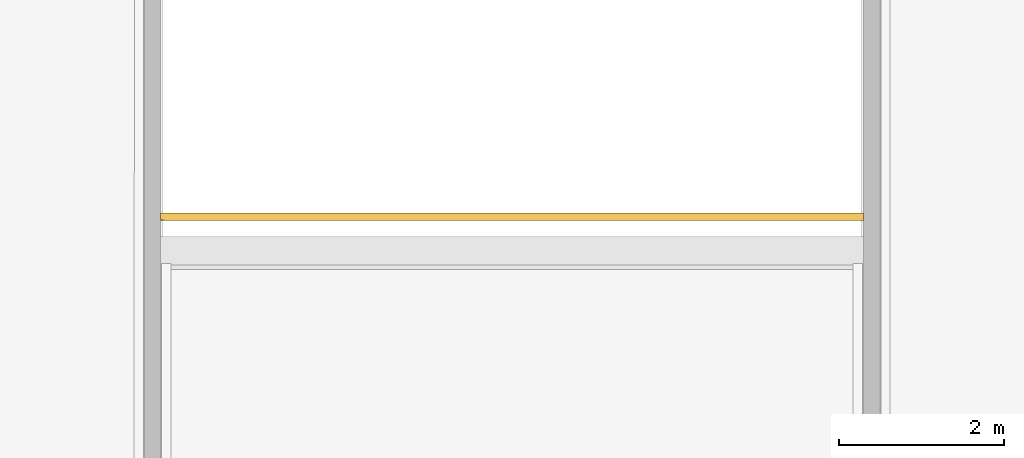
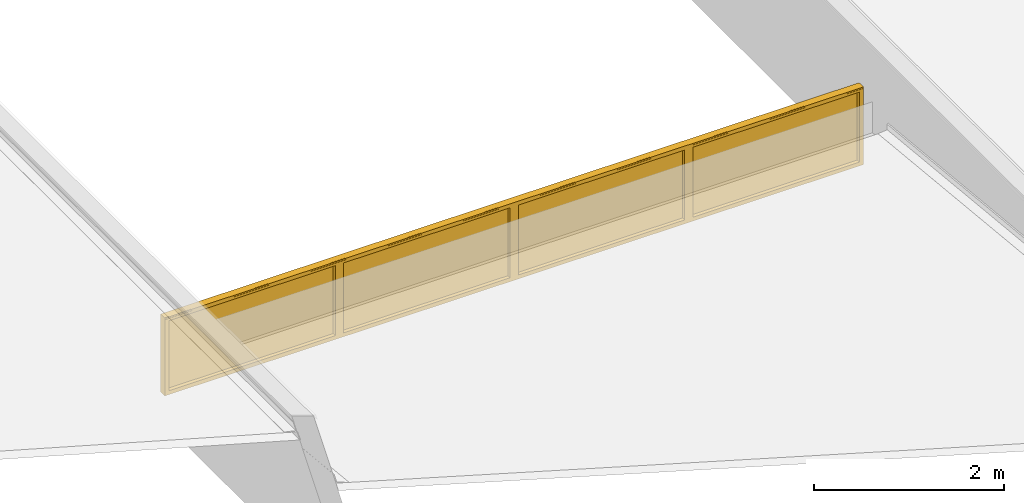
# One storey, part 25 of 25: 1 shading device.
"""IFC4 building model written with IfcOpenShell, lengths in metres."""

from ifc_helpers import new_model, entity, si_unit, converted_unit, derived_unit, direction, frame, origin_with_axes, place, context, subcontext, project, spatial, polygons, material, constituent, constituent_set, type_object, element, save


model = new_model("IFC4")

# Units and contexts
model_context = context("Model", 3, precision=1e-05, world=origin_with_axes(), true_north=direction((0.0, 1.0)))
body_context = subcontext(model_context, "Body", "Model", "MODEL_VIEW")
ifc_project = project(units=[si_unit("LENGTHUNIT", "METRE"), si_unit("AREAUNIT", "SQUARE_METRE"), si_unit("VOLUMEUNIT", "CUBIC_METRE"), converted_unit("PLANEANGLEUNIT", "DEGREE", entity("IfcPlaneAngleMeasure", 0.0174532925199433), si_unit("PLANEANGLEUNIT", "RADIAN"), dimensions=[0, 0, 0, 0, 0, 0, 0]), converted_unit("TIMEUNIT", "Year", entity("IfcTimeMeasure", 31557600.0), si_unit("TIMEUNIT", "SECOND"), dimensions=[0, 0, 1, 0, 0, 0, 0]), si_unit("MASSUNIT", "GRAM", prefix="KILO"), si_unit("THERMODYNAMICTEMPERATUREUNIT", "DEGREE_CELSIUS"), si_unit("LUMINOUSINTENSITYUNIT", "LUMEN"), si_unit("ENERGYUNIT", "JOULE", prefix="MEGA"), derived_unit("THERMALCONDUCTANCEUNIT", [(si_unit("POWERUNIT", "WATT"), 1), (si_unit("LENGTHUNIT", "METRE"), -1), (si_unit("THERMODYNAMICTEMPERATUREUNIT", "KELVIN"), -1)]), derived_unit("SPECIFICHEATCAPACITYUNIT", [(si_unit("ENERGYUNIT", "JOULE"), 1), (si_unit("MASSUNIT", "GRAM", prefix="KILO"), -1), (si_unit("THERMODYNAMICTEMPERATUREUNIT", "KELVIN"), -1)]), derived_unit("MASSDENSITYUNIT", [(si_unit("MASSUNIT", "GRAM", prefix="KILO"), 1), (si_unit("VOLUMEUNIT", "CUBIC_METRE"), -1)])], contexts=[model_context])

# Site, building, storey
site_placement = place(None, origin_with_axes())
site = spatial("IfcSite", under=ifc_project, at=site_placement, Name="PADRÃO", CompositionType="ELEMENT")
building_placement = place(site_placement, origin_with_axes())
building = spatial("IfcBuilding", under=site, at=building_placement, Name="CRECHE PRÉ-ESCOLA TIPO 2", CompositionType="ELEMENT")
storey_placement = place(building_placement, frame((0.0, 0.0, 3.26), z_axis=(0.0, 0.0, 1.0), x_axis=(1.0, 0.0, 0.0)))
storey = spatial("IfcBuildingStorey", under=building, at=storey_placement, Name="COBERTURA", CompositionType="ELEMENT", Elevation=3.26)

# Shading device
ifc_material_1 = material(Name="EI-MTL-PERFIL EM AÇO GALVANIZADO -AZUL")
ifc_constituent_1 = constituent(ifc_material_1, Name="EI-MTL-PERFIL EM AÇO GALVANIZADO -AZUL 1")
ifc_constituent_2 = constituent(ifc_material_1, Name="EI-MTL-PERFIL EM AÇO GALVANIZADO -AZUL 2")
ifc_material_2 = material(Name="EI-MTL-CHAPA DE AÇO CARBONO PERFURADA -AZUL")
ifc_constituent_3 = constituent(ifc_material_2, Name="EI-MTL-CHAPA DE AÇO CARBONO PERFURADA -AZUL 1")
ifc_constituent_4 = constituent(ifc_material_1, Name="EI-MTL-PERFIL EM AÇO GALVANIZADO -AZUL 3")
ifc_constituent_5 = constituent(ifc_material_1, Name="EI-MTL-PERFIL EM AÇO GALVANIZADO -AZUL 4")
ifc_material_3 = material(Name="Volume de Ar - Moldura")
ifc_constituent_6 = constituent(ifc_material_3, Name="Volume de Ar - Moldura 1")
ifc_constituent_7 = constituent(ifc_material_1, Name="EI-MTL-PERFIL EM AÇO GALVANIZADO -AZUL 5")
ifc_constituent_8 = constituent(ifc_material_1, Name="EI-MTL-PERFIL EM AÇO GALVANIZADO -AZUL 6")
ifc_constituent_9 = constituent(ifc_material_2, Name="EI-MTL-CHAPA DE AÇO CARBONO PERFURADA -AZUL 2")
ifc_constituent_10 = constituent(ifc_material_1, Name="EI-MTL-PERFIL EM AÇO GALVANIZADO -AZUL 7")
ifc_constituent_11 = constituent(ifc_material_1, Name="EI-MTL-PERFIL EM AÇO GALVANIZADO -AZUL 8")
ifc_constituent_12 = constituent(ifc_material_3, Name="Volume de Ar - Moldura 2")
ifc_constituent_13 = constituent(ifc_material_1, Name="EI-MTL-PERFIL EM AÇO GALVANIZADO -AZUL 9")
ifc_constituent_14 = constituent(ifc_material_1, Name="EI-MTL-PERFIL EM AÇO GALVANIZADO -AZUL 10")
ifc_constituent_15 = constituent(ifc_material_2, Name="EI-MTL-CHAPA DE AÇO CARBONO PERFURADA -AZUL 3")
ifc_constituent_16 = constituent(ifc_material_1, Name="EI-MTL-PERFIL EM AÇO GALVANIZADO -AZUL 11")
ifc_constituent_17 = constituent(ifc_material_1, Name="EI-MTL-PERFIL EM AÇO GALVANIZADO -AZUL 12")
ifc_constituent_18 = constituent(ifc_material_3, Name="Volume de Ar - Moldura 3")
ifc_constituent_19 = constituent(ifc_material_1, Name="EI-MTL-PERFIL EM AÇO GALVANIZADO -AZUL 13")
ifc_constituent_20 = constituent(ifc_material_1, Name="EI-MTL-PERFIL EM AÇO GALVANIZADO -AZUL 14")
ifc_constituent_21 = constituent(ifc_material_2, Name="EI-MTL-CHAPA DE AÇO CARBONO PERFURADA -AZUL 4")
ifc_constituent_22 = constituent(ifc_material_1, Name="EI-MTL-PERFIL EM AÇO GALVANIZADO -AZUL 15")
ifc_constituent_23 = constituent(ifc_material_1, Name="EI-MTL-PERFIL EM AÇO GALVANIZADO -AZUL 16")
ifc_constituent_set = constituent_set(constituents=[ifc_constituent_1, ifc_constituent_2, ifc_constituent_3, ifc_constituent_4, ifc_constituent_5, ifc_constituent_6, ifc_constituent_7, ifc_constituent_8, ifc_constituent_9, ifc_constituent_10, ifc_constituent_11, ifc_constituent_12, ifc_constituent_13, ifc_constituent_14, ifc_constituent_15, ifc_constituent_16, ifc_constituent_17, ifc_constituent_18, ifc_constituent_19, ifc_constituent_20, ifc_constituent_21, ifc_constituent_22, ifc_constituent_23])
shading_device_type = type_object("IfcShadingDeviceType", Name="Várias Estruturas- 15 Segmentos - 90 x 1000 x 8500 (50+2024+50+1+50+2024+50+1+50+2024+50+1+50+2024+50)", PredefinedType="NOTDEFINED")
shading_device_placement = place(storey_placement, frame((-17.5400505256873, 26.9501565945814, 0.0270000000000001), z_axis=(0.0, 0.0, 1.0), x_axis=(-1.54249971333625e-09, 1.0, 0.0)))
element("IfcShadingDevice", 1, at=shading_device_placement, inside=storey, type_object=shading_device_type, material=ifc_constituent_set, PredefinedType="NOTDEFINED", context=body_context, shape_type="Tessellation", body=[
    polygons([(0.0, 0.0, 0.64), (0.0, 0.0, 0.621853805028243), (0.00619083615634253, 0.0, 0.632576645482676), (0.00619083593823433, 0.0, 0.64), (0.0, 0.0500000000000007, 0.64), (0.0, 0.0500000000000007, 0.621853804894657), (0.00619083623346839, 0.0500000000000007, 0.632576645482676), (0.00619083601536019, 0.0500000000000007, 0.64)], [[[1, 2, 3, 4]], [[5, 6, 2, 1]], [[7, 3, 2, 6]], [[7, 8, 4, 3]], [[1, 4, 8, 5]], [[8, 7, 6, 5]]], closed=True),
    polygons([(0.0899999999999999, 0.0500000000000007, 0.64), (0.0066908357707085, 0.0500000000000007, 0.64), (0.00669083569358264, 0.0, 0.64), (0.0899999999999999, 0.0, 0.64), (0.0, 0.0500000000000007, 0.620853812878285), (0.00669083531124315, 0.0500000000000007, 0.632442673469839), (0.0899999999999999, 0.0500000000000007, -0.36), (0.0, 0.0500000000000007, -0.36), (0.00669083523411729, 0.0, 0.632442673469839), (0.0, 0.0, 0.620853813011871), (0.0, 0.0, -0.36), (0.0899999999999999, 0.0, -0.36)], [[[1, 2, 3, 4]], [[5, 6, 2, 1, 7, 8]], [[6, 9, 3, 2]], [[3, 9, 10, 11, 12, 4]], [[4, 12, 7, 1]], [[5, 10, 9, 6]], [[12, 11, 8, 7]], [[11, 10, 5, 8]]], closed=True),
    polygons([(0.0, 2.07425738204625, -0.36), (0.0900000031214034, 2.07425738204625, -0.36), (0.0900000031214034, 0.0500000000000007, -0.36), (0.0, 0.0500000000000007, -0.36), (0.0, 2.07425738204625, -0.31000000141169), (0.0442499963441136, 2.07425738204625, -0.31000000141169), (0.0457500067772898, 2.07425738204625, -0.31000000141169), (0.0900000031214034, 2.07425738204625, -0.31000000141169), (0.0900000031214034, 0.0500000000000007, -0.31000000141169), (0.0457500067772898, 0.0500000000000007, -0.31000000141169), (0.0442499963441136, 0.0500000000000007, -0.31000000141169), (0.0, 0.0500000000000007, -0.31000000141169)], [[[1, 2, 3, 4]], [[1, 5, 6, 7, 8, 2]], [[2, 8, 9, 3]], [[4, 3, 9, 10, 11, 12]], [[5, 1, 4, 12]], [[6, 5, 12, 11]], [[7, 6, 11, 10]], [[8, 7, 10, 9]]], closed=True),
    polygons([(0.0442499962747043, 2.07425738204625, -0.31), (0.0457500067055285, 2.07425738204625, -0.31), (0.0457500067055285, 0.0500000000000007, -0.31), (0.0442499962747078, 0.0500000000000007, -0.31), (0.0442499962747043, 2.07425738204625, 0.590000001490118), (0.0457500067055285, 2.07425738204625, 0.590000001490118), (0.0457500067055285, 0.0500000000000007, 0.590000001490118), (0.0442499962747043, 0.0500000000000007, 0.590000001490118)], [[[1, 2, 3, 4]], [[1, 5, 6, 2]], [[2, 6, 7, 3]], [[4, 3, 7, 8]], [[5, 1, 4, 8]], [[6, 5, 8, 7]]], closed=True),
    polygons([(0.0, 0.0500000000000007, 0.621853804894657), (0.00619083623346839, 0.0500000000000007, 0.632576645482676), (0.00619083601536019, 0.0500000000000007, 0.64), (0.0, 0.0500000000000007, 0.64), (0.0, 2.07425738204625, 0.621853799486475), (0.00619083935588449, 2.07425738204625, 0.632576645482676), (0.00619083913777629, 2.07425738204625, 0.64), (0.0, 2.07425738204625, 0.64)], [[[1, 2, 3, 4]], [[2, 1, 5, 6]], [[7, 3, 2, 6]], [[3, 7, 8, 4]], [[5, 1, 4, 8]], [[6, 5, 8, 7]]], closed=True),
    polygons([(0.00669083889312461, 2.07425738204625, 0.64), (0.0066908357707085, 0.0500000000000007, 0.64), (0.0899999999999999, 0.0500000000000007, 0.64), (0.0899999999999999, 2.07425738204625, 0.64), (0.00669083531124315, 0.0500000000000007, 0.632442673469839), (0.00669083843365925, 2.07425738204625, 0.632442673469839), (0.0, 0.0500000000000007, 0.620853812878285), (0.0, 0.0500000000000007, 0.59), (0.0442499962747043, 0.0500000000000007, 0.590000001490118), (0.0457500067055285, 0.0500000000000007, 0.590000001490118), (0.0899999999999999, 0.0500000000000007, 0.59), (0.0899999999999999, 2.07425738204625, 0.59), (0.0457500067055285, 2.07425738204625, 0.590000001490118), (0.0442499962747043, 2.07425738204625, 0.590000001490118), (0.0, 2.07425738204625, 0.59), (0.0, 2.07425738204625, 0.620853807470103)], [[[1, 2, 3, 4]], [[5, 2, 1, 6]], [[5, 7, 8, 9, 10, 11, 3, 2]], [[11, 12, 4, 3]], [[6, 1, 4, 12, 13, 14, 15, 16]], [[7, 5, 6, 16]], [[7, 16, 15, 8]], [[8, 15, 14, 9]], [[9, 14, 13, 10]], [[10, 13, 12, 11]]], closed=True),
    polygons([(0.0, 2.07425738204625, 0.64), (0.0, 2.07425738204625, 0.621853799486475), (0.00619083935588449, 2.07425738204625, 0.632576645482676), (0.00619083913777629, 2.07425738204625, 0.64), (0.0, 2.12425738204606, 0.64), (0.0, 2.12425738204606, 0.621853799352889), (0.0061908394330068, 2.12425738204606, 0.632576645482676), (0.0061908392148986, 2.12425738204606, 0.64)], [[[1, 2, 3, 4]], [[5, 6, 2, 1]], [[7, 3, 2, 6]], [[7, 8, 4, 3]], [[1, 4, 8, 5]], [[8, 7, 6, 5]]], closed=True),
    polygons([(0.0899999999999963, 2.12425738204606, 0.64), (0.00669083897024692, 2.12425738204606, 0.64), (0.00669083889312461, 2.07425738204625, 0.64), (0.0899999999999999, 2.07425738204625, 0.64), (0.0, 2.12425738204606, 0.620853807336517), (0.00669083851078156, 2.12425738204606, 0.632442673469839), (0.0899999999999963, 2.12425738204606, -0.36), (0.0, 2.12425738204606, -0.36), (0.00669083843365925, 2.07425738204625, 0.632442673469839), (0.0, 2.07425738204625, 0.620853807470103), (0.0, 2.07425738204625, -0.36), (0.0899999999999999, 2.07425738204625, -0.36)], [[[1, 2, 3, 4]], [[5, 6, 2, 1, 7, 8]], [[6, 9, 3, 2]], [[3, 9, 10, 11, 12, 4]], [[4, 12, 7, 1]], [[5, 10, 9, 6]], [[12, 11, 8, 7]], [[11, 10, 5, 8]]], closed=True),
    polygons([(0.0, 2.12425738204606, 0.621853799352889), (0.0061908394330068, 2.12425738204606, 0.632576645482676), (0.0061908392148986, 2.12425738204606, 0.64), (0.0, 2.12425738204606, 0.64), (0.0, 2.12525738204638, 0.621853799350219), (0.00619083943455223, 2.12525738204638, 0.632576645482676), (0.00619083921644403, 2.12525738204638, 0.64), (0.0, 2.12525738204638, 0.64)], [[[1, 2, 3, 4]], [[2, 1, 5, 6]], [[7, 3, 2, 6]], [[3, 7, 8, 4]], [[5, 1, 4, 8]], [[6, 5, 8, 7]]], closed=True),
    polygons([(0.00669083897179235, 2.12525738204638, 0.64), (0.00669083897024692, 2.12425738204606, 0.64), (0.0899999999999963, 2.12425738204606, 0.64), (0.0899999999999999, 2.12525738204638, 0.64), (0.00669083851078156, 2.12425738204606, 0.632442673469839), (0.00669083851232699, 2.12525738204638, 0.632442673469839), (0.0, 2.12425738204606, 0.620853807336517), (0.0, 2.12425738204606, -0.36), (0.0899999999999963, 2.12425738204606, -0.36), (0.0899999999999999, 2.12525738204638, -0.36), (0.0, 2.12525738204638, -0.36), (0.0, 2.12525738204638, 0.620853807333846)], [[[1, 2, 3, 4]], [[5, 2, 1, 6]], [[5, 7, 8, 9, 3, 2]], [[9, 10, 4, 3]], [[6, 1, 4, 10, 11, 12]], [[7, 5, 6, 12]], [[7, 12, 11, 8]], [[8, 11, 10, 9]]], closed=True),
    polygons([(0.0, 2.12525738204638, 0.64), (0.0, 2.12525738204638, 0.621853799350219), (0.00619083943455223, 2.12525738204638, 0.632576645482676), (0.00619083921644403, 2.12525738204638, 0.64), (0.0, 2.17525738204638, 0.64), (0.0, 2.17525738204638, 0.621853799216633), (0.00619083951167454, 2.17525738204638, 0.632576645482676), (0.00619083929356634, 2.17525738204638, 0.64)], [[[1, 2, 3, 4]], [[5, 6, 2, 1]], [[7, 3, 2, 6]], [[7, 8, 4, 3]], [[1, 4, 8, 5]], [[8, 7, 6, 5]]], closed=True),
    polygons([(0.0899999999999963, 2.17525738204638, 0.64), (0.00669083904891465, 2.17525738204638, 0.64), (0.00669083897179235, 2.12525738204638, 0.64), (0.0899999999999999, 2.12525738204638, 0.64), (0.0, 2.17525738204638, 0.62085380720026), (0.0066908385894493, 2.17525738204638, 0.632442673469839), (0.0899999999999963, 2.17525738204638, -0.36), (0.0, 2.17525738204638, -0.36), (0.00669083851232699, 2.12525738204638, 0.632442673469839), (0.0, 2.12525738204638, 0.620853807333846), (0.0, 2.12525738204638, -0.36), (0.0899999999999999, 2.12525738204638, -0.36)], [[[1, 2, 3, 4]], [[5, 6, 2, 1, 7, 8]], [[6, 9, 3, 2]], [[3, 9, 10, 11, 12, 4]], [[4, 12, 7, 1]], [[5, 10, 9, 6]], [[12, 11, 8, 7]], [[11, 10, 5, 8]]], closed=True),
    polygons([(0.0, 4.19951476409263, -0.36), (0.0900000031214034, 4.19951476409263, -0.36), (0.0900000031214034, 2.17525738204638, -0.36), (0.0, 2.17525738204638, -0.36), (0.0, 4.19951476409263, -0.31000000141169), (0.0442499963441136, 4.19951476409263, -0.31000000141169), (0.0457500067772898, 4.19951476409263, -0.31000000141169), (0.0900000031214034, 4.19951476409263, -0.31000000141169), (0.0900000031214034, 2.17525738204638, -0.31000000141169), (0.0457500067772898, 2.17525738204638, -0.31000000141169), (0.0442499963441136, 2.17525738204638, -0.31000000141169), (0.0, 2.17525738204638, -0.31000000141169)], [[[1, 2, 3, 4]], [[1, 5, 6, 7, 8, 2]], [[2, 8, 9, 3]], [[4, 3, 9, 10, 11, 12]], [[5, 1, 4, 12]], [[6, 5, 12, 11]], [[7, 6, 11, 10]], [[8, 7, 10, 9]]], closed=True),
    polygons([(0.0442499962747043, 4.19951476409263, -0.31), (0.0457500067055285, 4.19951476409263, -0.31), (0.0457500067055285, 2.17525738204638, -0.31), (0.0442499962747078, 2.17525738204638, -0.31), (0.0442499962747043, 4.19951476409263, 0.590000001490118), (0.0457500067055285, 4.19951476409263, 0.590000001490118), (0.0457500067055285, 2.17525738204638, 0.590000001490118), (0.0442499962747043, 2.17525738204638, 0.590000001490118)], [[[1, 2, 3, 4]], [[1, 5, 6, 2]], [[2, 6, 7, 3]], [[4, 3, 7, 8]], [[5, 1, 4, 8]], [[6, 5, 8, 7]]], closed=True),
    polygons([(0.0, 2.17525738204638, 0.621853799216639), (0.00619083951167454, 2.17525738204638, 0.632576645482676), (0.00619083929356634, 2.17525738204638, 0.64), (0.0, 2.17525738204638, 0.64), (0.0, 4.19951476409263, 0.621853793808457), (0.00619084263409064, 4.19951476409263, 0.632576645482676), (0.00619084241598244, 4.19951476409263, 0.64), (0.0, 4.19951476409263, 0.64)], [[[1, 2, 3, 4]], [[2, 1, 5, 6]], [[7, 3, 2, 6]], [[3, 7, 8, 4]], [[5, 1, 4, 8]], [[6, 5, 8, 7]]], closed=True),
    polygons([(0.00669084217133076, 4.19951476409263, 0.64), (0.00669083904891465, 2.17525738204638, 0.64), (0.0899999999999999, 2.17525738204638, 0.64), (0.0899999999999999, 4.19951476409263, 0.64), (0.0066908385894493, 2.17525738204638, 0.632442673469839), (0.0066908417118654, 4.19951476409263, 0.632442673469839), (0.0, 2.17525738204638, 0.620853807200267), (0.0, 2.17525738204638, 0.59), (0.0442499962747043, 2.17525738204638, 0.590000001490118), (0.0457500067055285, 2.17525738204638, 0.590000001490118), (0.0899999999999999, 2.17525738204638, 0.59), (0.0899999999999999, 4.19951476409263, 0.59), (0.0457500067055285, 4.19951476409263, 0.590000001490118), (0.0442499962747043, 4.19951476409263, 0.590000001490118), (0.0, 4.19951476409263, 0.59), (0.0, 4.19951476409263, 0.620853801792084)], [[[1, 2, 3, 4]], [[5, 2, 1, 6]], [[5, 7, 8, 9, 10, 11, 3, 2]], [[11, 12, 4, 3]], [[6, 1, 4, 12, 13, 14, 15, 16]], [[7, 5, 6, 16]], [[7, 16, 15, 8]], [[8, 15, 14, 9]], [[9, 14, 13, 10]], [[10, 13, 12, 11]]], closed=True),
    polygons([(0.0, 4.19951476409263, 0.64), (0.0, 4.19951476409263, 0.62185379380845), (0.00619084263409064, 4.19951476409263, 0.632576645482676), (0.00619084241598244, 4.19951476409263, 0.64), (0.0, 4.24951476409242, 0.64), (0.0, 4.24951476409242, 0.621853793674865), (0.0061908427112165, 4.24951476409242, 0.632576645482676), (0.00619084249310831, 4.24951476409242, 0.64)], [[[1, 2, 3, 4]], [[5, 6, 2, 1]], [[7, 3, 2, 6]], [[7, 8, 4, 3]], [[1, 4, 8, 5]], [[8, 7, 6, 5]]], closed=True),
    polygons([(0.0899999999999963, 4.24951476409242, 0.64), (0.00669084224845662, 4.24951476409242, 0.64), (0.00669084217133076, 4.19951476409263, 0.64), (0.0899999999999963, 4.19951476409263, 0.64), (0.0, 4.24951476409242, 0.620853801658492), (0.00669084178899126, 4.24951476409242, 0.632442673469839), (0.0899999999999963, 4.24951476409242, -0.36), (0.0, 4.24951476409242, -0.36), (0.0066908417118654, 4.19951476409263, 0.632442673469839), (0.0, 4.19951476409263, 0.620853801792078), (0.0, 4.19951476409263, -0.36), (0.0899999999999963, 4.19951476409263, -0.36)], [[[1, 2, 3, 4]], [[5, 6, 2, 1, 7, 8]], [[6, 9, 3, 2]], [[3, 9, 10, 11, 12, 4]], [[4, 12, 7, 1]], [[5, 10, 9, 6]], [[12, 11, 8, 7]], [[11, 10, 5, 8]]], closed=True),
    polygons([(0.0, 4.24951476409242, 0.62185379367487), (0.0061908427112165, 4.24951476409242, 0.632576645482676), (0.00619084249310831, 4.24951476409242, 0.64), (0.0, 4.24951476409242, 0.64), (0.0, 4.25051476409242, 0.6218537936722), (0.00619084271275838, 4.25051476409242, 0.632576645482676), (0.00619084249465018, 4.25051476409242, 0.64), (0.0, 4.25051476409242, 0.64)], [[[1, 2, 3, 4]], [[2, 1, 5, 6]], [[7, 3, 2, 6]], [[3, 7, 8, 4]], [[5, 1, 4, 8]], [[6, 5, 8, 7]]], closed=True),
    polygons([(0.0066908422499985, 4.25051476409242, 0.64), (0.00669084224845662, 4.24951476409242, 0.64), (0.0899999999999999, 4.24951476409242, 0.64), (0.0899999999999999, 4.25051476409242, 0.64), (0.00669084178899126, 4.24951476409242, 0.632442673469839), (0.00669084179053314, 4.25051476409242, 0.632442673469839), (0.0, 4.24951476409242, 0.620853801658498), (0.0, 4.24951476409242, -0.36), (0.0899999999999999, 4.24951476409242, -0.36), (0.0899999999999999, 4.25051476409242, -0.36), (0.0, 4.25051476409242, -0.36), (0.0, 4.25051476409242, 0.620853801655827)], [[[1, 2, 3, 4]], [[5, 2, 1, 6]], [[5, 7, 8, 9, 3, 2]], [[9, 10, 4, 3]], [[6, 1, 4, 10, 11, 12]], [[7, 5, 6, 12]], [[7, 12, 11, 8]], [[8, 11, 10, 9]]], closed=True),
    polygons([(0.0, 4.25051476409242, 0.64), (0.0, 4.25051476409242, 0.6218537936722), (0.00619084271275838, 4.25051476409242, 0.632576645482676), (0.00619084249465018, 4.25051476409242, 0.64), (0.0, 4.30051476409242, 0.64), (0.0, 4.30051476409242, 0.621853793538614), (0.00619084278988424, 4.30051476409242, 0.632576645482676), (0.00619084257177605, 4.30051476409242, 0.64)], [[[1, 2, 3, 4]], [[5, 6, 2, 1]], [[7, 3, 2, 6]], [[7, 8, 4, 3]], [[1, 4, 8, 5]], [[8, 7, 6, 5]]], closed=True),
    polygons([(0.0899999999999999, 4.30051476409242, 0.64), (0.00669084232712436, 4.30051476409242, 0.64), (0.0066908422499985, 4.25051476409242, 0.64), (0.0899999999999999, 4.25051476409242, 0.64), (0.0, 4.30051476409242, 0.620853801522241), (0.006690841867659, 4.30051476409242, 0.632442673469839), (0.0899999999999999, 4.30051476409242, -0.36), (0.0, 4.30051476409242, -0.36), (0.00669084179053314, 4.25051476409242, 0.632442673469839), (0.0, 4.25051476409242, 0.620853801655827), (0.0, 4.25051476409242, -0.36), (0.0899999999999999, 4.25051476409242, -0.36)], [[[1, 2, 3, 4]], [[5, 6, 2, 1, 7, 8]], [[6, 9, 3, 2]], [[3, 9, 10, 11, 12, 4]], [[4, 12, 7, 1]], [[5, 10, 9, 6]], [[12, 11, 8, 7]], [[11, 10, 5, 8]]], closed=True),
    polygons([(0.0, 6.32477214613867, -0.36), (0.0900000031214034, 6.32477214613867, -0.36), (0.0900000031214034, 4.30051476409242, -0.36), (0.0, 4.30051476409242, -0.36), (0.0, 6.32477214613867, -0.31000000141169), (0.0442499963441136, 6.32477214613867, -0.31000000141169), (0.0457500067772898, 6.32477214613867, -0.31000000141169), (0.0900000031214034, 6.32477214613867, -0.31000000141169), (0.0900000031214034, 4.30051476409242, -0.31000000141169), (0.0457500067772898, 4.30051476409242, -0.31000000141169), (0.0442499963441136, 4.30051476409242, -0.31000000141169), (0.0, 4.30051476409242, -0.31000000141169)], [[[1, 2, 3, 4]], [[1, 5, 6, 7, 8, 2]], [[2, 8, 9, 3]], [[4, 3, 9, 10, 11, 12]], [[5, 1, 4, 12]], [[6, 5, 12, 11]], [[7, 6, 11, 10]], [[8, 7, 10, 9]]], closed=True),
    polygons([(0.0442499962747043, 6.32477214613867, -0.31), (0.0457500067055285, 6.32477214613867, -0.31), (0.0457500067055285, 4.30051476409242, -0.31), (0.0442499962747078, 4.30051476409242, -0.31), (0.0442499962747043, 6.32477214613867, 0.590000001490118), (0.0457500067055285, 6.32477214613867, 0.590000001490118), (0.0457500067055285, 4.30051476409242, 0.590000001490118), (0.0442499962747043, 4.30051476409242, 0.590000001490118)], [[[1, 2, 3, 4]], [[1, 5, 6, 2]], [[2, 6, 7, 3]], [[4, 3, 7, 8]], [[5, 1, 4, 8]], [[6, 5, 8, 7]]], closed=True),
    polygons([(0.0, 4.30051476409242, 0.621853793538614), (0.00619084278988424, 4.30051476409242, 0.632576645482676), (0.00619084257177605, 4.30051476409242, 0.64), (0.0, 4.30051476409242, 0.64), (0.0, 6.32477214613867, 0.621853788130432), (0.00619084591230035, 6.32477214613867, 0.632576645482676), (0.00619084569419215, 6.32477214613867, 0.64), (0.0, 6.32477214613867, 0.64)], [[[1, 2, 3, 4]], [[2, 1, 5, 6]], [[7, 3, 2, 6]], [[3, 7, 8, 4]], [[5, 1, 4, 8]], [[6, 5, 8, 7]]], closed=True),
    polygons([(0.00669084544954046, 6.32477214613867, 0.64), (0.00669084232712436, 4.30051476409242, 0.64), (0.0899999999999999, 4.30051476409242, 0.64), (0.0899999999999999, 6.32477214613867, 0.64), (0.006690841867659, 4.30051476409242, 0.632442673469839), (0.00669084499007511, 6.32477214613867, 0.632442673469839), (0.0, 4.30051476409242, 0.620853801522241), (0.0, 4.30051476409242, 0.59), (0.0442499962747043, 4.30051476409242, 0.590000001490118), (0.0457500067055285, 4.30051476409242, 0.590000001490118), (0.0899999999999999, 4.30051476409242, 0.59), (0.0899999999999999, 6.32477214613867, 0.59), (0.0457500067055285, 6.32477214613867, 0.590000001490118), (0.0442499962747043, 6.32477214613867, 0.590000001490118), (0.0, 6.32477214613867, 0.59), (0.0, 6.32477214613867, 0.620853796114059)], [[[1, 2, 3, 4]], [[5, 2, 1, 6]], [[5, 7, 8, 9, 10, 11, 3, 2]], [[11, 12, 4, 3]], [[6, 1, 4, 12, 13, 14, 15, 16]], [[7, 5, 6, 16]], [[7, 16, 15, 8]], [[8, 15, 14, 9]], [[9, 14, 13, 10]], [[10, 13, 12, 11]]], closed=True),
    polygons([(0.0, 6.32477214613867, 0.64), (0.0, 6.32477214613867, 0.621853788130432), (0.00619084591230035, 6.32477214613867, 0.632576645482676), (0.00619084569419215, 6.32477214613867, 0.64), (0.0, 6.37478844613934, 0.64), (0.0, 6.37478844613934, 0.621853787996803), (0.00619084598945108, 6.37478844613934, 0.632576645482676), (0.00619084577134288, 6.37478844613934, 0.64)], [[[1, 2, 3, 4]], [[5, 6, 2, 1]], [[7, 3, 2, 6]], [[7, 8, 4, 3]], [[1, 4, 8, 5]], [[8, 7, 6, 5]]], closed=True),
    polygons([(0.0899999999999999, 6.37478844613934, 0.64), (0.00669084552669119, 6.37478844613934, 0.64), (0.00669084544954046, 6.32477214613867, 0.64), (0.0899999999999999, 6.32477214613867, 0.64), (0.0, 6.37478844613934, 0.62085379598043), (0.00669084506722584, 6.37478844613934, 0.632442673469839), (0.0899999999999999, 6.37478844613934, -0.36), (0.0, 6.37478844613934, -0.36), (0.00669084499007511, 6.32477214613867, 0.632442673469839), (0.0, 6.32477214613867, 0.620853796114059), (0.0, 6.32477214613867, -0.36), (0.0899999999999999, 6.32477214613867, -0.36)], [[[1, 2, 3, 4]], [[5, 6, 2, 1, 7, 8]], [[6, 9, 3, 2]], [[3, 9, 10, 11, 12, 4]], [[4, 12, 7, 1]], [[5, 10, 9, 6]], [[12, 11, 8, 7]], [[11, 10, 5, 8]]], closed=True),
    polygons([(0.0, 6.37478844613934, 0.621853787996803), (0.00619084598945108, 6.37478844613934, 0.632576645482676), (0.00619084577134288, 6.37478844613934, 0.64), (0.0, 6.37478844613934, 0.64), (0.0, 6.37578844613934, 0.621853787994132), (0.00619084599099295, 6.37578844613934, 0.632576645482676), (0.00619084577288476, 6.37578844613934, 0.64), (0.0, 6.37578844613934, 0.64)], [[[1, 2, 3, 4]], [[2, 1, 5, 6]], [[7, 3, 2, 6]], [[3, 7, 8, 4]], [[5, 1, 4, 8]], [[6, 5, 8, 7]]], closed=True),
    polygons([(0.00669084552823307, 6.37578844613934, 0.64), (0.00669084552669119, 6.37478844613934, 0.64), (0.0899999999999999, 6.37478844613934, 0.64), (0.0899999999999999, 6.37578844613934, 0.64), (0.00669084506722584, 6.37478844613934, 0.632442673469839), (0.00669084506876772, 6.37578844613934, 0.632442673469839), (0.0, 6.37478844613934, 0.62085379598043), (0.0, 6.37478844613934, -0.36), (0.0899999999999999, 6.37478844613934, -0.36), (0.0899999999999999, 6.37578844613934, -0.36), (0.0, 6.37578844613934, -0.36), (0.0, 6.37578844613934, 0.62085379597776)], [[[1, 2, 3, 4]], [[5, 2, 1, 6]], [[5, 7, 8, 9, 3, 2]], [[9, 10, 4, 3]], [[6, 1, 4, 10, 11, 12]], [[7, 5, 6, 12]], [[7, 12, 11, 8]], [[8, 11, 10, 9]]], closed=True),
    polygons([(0.0, 6.37578844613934, 0.64), (0.0, 6.37578844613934, 0.621853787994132), (0.00619084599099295, 6.37578844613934, 0.632576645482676), (0.00619084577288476, 6.37578844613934, 0.64), (0.0, 6.42578844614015, 0.64), (0.0, 6.42578844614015, 0.621853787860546), (0.00619084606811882, 6.42578844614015, 0.632576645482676), (0.00619084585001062, 6.42578844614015, 0.64)], [[[1, 2, 3, 4]], [[5, 6, 2, 1]], [[7, 3, 2, 6]], [[7, 8, 4, 3]], [[1, 4, 8, 5]], [[8, 7, 6, 5]]], closed=True),
    polygons([(0.0899999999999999, 6.42578844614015, 0.64), (0.00669084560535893, 6.42578844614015, 0.64), (0.00669084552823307, 6.37578844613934, 0.64), (0.0899999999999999, 6.37578844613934, 0.64), (0.0, 6.42578844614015, 0.620853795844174), (0.00669084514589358, 6.42578844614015, 0.632442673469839), (0.0899999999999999, 6.42578844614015, -0.36), (0.0, 6.42578844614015, -0.36), (0.00669084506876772, 6.37578844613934, 0.632442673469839), (0.0, 6.37578844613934, 0.62085379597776), (0.0, 6.37578844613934, -0.36), (0.0899999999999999, 6.37578844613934, -0.36)], [[[1, 2, 3, 4]], [[5, 6, 2, 1, 7, 8]], [[6, 9, 3, 2]], [[3, 9, 10, 11, 12, 4]], [[4, 12, 7, 1]], [[5, 10, 9, 6]], [[12, 11, 8, 7]], [[11, 10, 5, 8]]], closed=True),
    polygons([(0.0, 8.4500458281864, -0.36), (0.0900000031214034, 8.4500458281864, -0.36), (0.0900000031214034, 6.42578844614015, -0.36), (0.0, 6.42578844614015, -0.36), (0.0, 8.4500458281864, -0.31000000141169), (0.0442499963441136, 8.4500458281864, -0.31000000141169), (0.0457500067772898, 8.4500458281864, -0.31000000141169), (0.0900000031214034, 8.4500458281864, -0.31000000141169), (0.0900000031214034, 6.42578844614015, -0.31000000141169), (0.0457500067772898, 6.42578844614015, -0.31000000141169), (0.0442499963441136, 6.42578844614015, -0.31000000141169), (0.0, 6.42578844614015, -0.31000000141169)], [[[1, 2, 3, 4]], [[1, 5, 6, 7, 8, 2]], [[2, 8, 9, 3]], [[4, 3, 9, 10, 11, 12]], [[5, 1, 4, 12]], [[6, 5, 12, 11]], [[7, 6, 11, 10]], [[8, 7, 10, 9]]], closed=True),
    polygons([(0.0442499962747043, 8.4500458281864, -0.31), (0.0457500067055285, 8.4500458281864, -0.31), (0.0457500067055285, 6.42578844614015, -0.31), (0.0442499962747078, 6.42578844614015, -0.31), (0.0442499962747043, 8.4500458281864, 0.590000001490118), (0.0457500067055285, 8.4500458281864, 0.590000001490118), (0.0457500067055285, 6.42578844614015, 0.590000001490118), (0.0442499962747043, 6.42578844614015, 0.590000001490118)], [[[1, 2, 3, 4]], [[1, 5, 6, 2]], [[2, 6, 7, 3]], [[4, 3, 7, 8]], [[5, 1, 4, 8]], [[6, 5, 8, 7]]], closed=True),
    polygons([(0.0, 6.42578844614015, 0.621853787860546), (0.00619084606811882, 6.42578844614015, 0.632576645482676), (0.00619084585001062, 6.42578844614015, 0.64), (0.0, 6.42578844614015, 0.64), (0.0, 8.4500458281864, 0.621853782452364), (0.00619084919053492, 8.4500458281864, 0.632576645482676), (0.00619084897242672, 8.4500458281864, 0.64), (0.0, 8.4500458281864, 0.64)], [[[1, 2, 3, 4]], [[2, 1, 5, 6]], [[7, 3, 2, 6]], [[3, 7, 8, 4]], [[5, 1, 4, 8]], [[6, 5, 8, 7]]], closed=True),
    polygons([(0.00669084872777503, 8.4500458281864, 0.64), (0.00669084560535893, 6.42578844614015, 0.64), (0.0899999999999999, 6.42578844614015, 0.64), (0.0899999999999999, 8.4500458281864, 0.64), (0.00669084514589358, 6.42578844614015, 0.632442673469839), (0.00669084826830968, 8.4500458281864, 0.632442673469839), (0.0, 6.42578844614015, 0.620853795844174), (0.0, 6.42578844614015, 0.59), (0.0442499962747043, 6.42578844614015, 0.590000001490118), (0.0457500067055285, 6.42578844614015, 0.590000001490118), (0.0899999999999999, 6.42578844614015, 0.59), (0.0899999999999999, 8.4500458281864, 0.59), (0.0457500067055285, 8.4500458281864, 0.590000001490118), (0.0442499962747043, 8.4500458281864, 0.590000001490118), (0.0, 8.4500458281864, 0.59), (0.0, 8.4500458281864, 0.620853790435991)], [[[1, 2, 3, 4]], [[5, 2, 1, 6]], [[5, 7, 8, 9, 10, 11, 3, 2]], [[11, 12, 4, 3]], [[6, 1, 4, 12, 13, 14, 15, 16]], [[7, 5, 6, 16]], [[7, 16, 15, 8]], [[8, 15, 14, 9]], [[9, 14, 13, 10]], [[10, 13, 12, 11]]], closed=True),
    polygons([(0.00619084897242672, 8.4500458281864, 0.64), (0.00619084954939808, 8.49998328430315, 0.64), (0.00669084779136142, 8.49998328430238, 0.64), (0.00669084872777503, 8.4500458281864, 0.64), (0.0899999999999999, 8.4500458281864, 0.64), (0.0899999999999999, 8.50004582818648, 0.64), (0.0, 8.50004582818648, 0.64), (0.0, 8.4500458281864, 0.64), (0.00619084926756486, 8.49998328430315, 0.632576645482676), (0.00619084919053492, 8.4500458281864, 0.632576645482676), (0.00669084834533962, 8.49998328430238, 0.632442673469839), (0.0, 8.4999832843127, 0.621853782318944), (0.0, 8.4999832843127, 0.620853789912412), (0.00669084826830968, 8.4500458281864, 0.632442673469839), (0.0, 8.4500458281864, 0.620853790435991), (0.0, 8.4500458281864, -0.36), (0.0899999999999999, 8.4500458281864, -0.36), (0.0899999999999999, 8.50004582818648, -0.36), (0.0, 8.50004582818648, -0.36), (0.0, 8.4500458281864, 0.621853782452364)], [[[1, 2, 3, 4, 5, 6, 7, 8]], [[9, 2, 1, 10]], [[11, 3, 2, 9, 12, 13]], [[11, 14, 4, 3]], [[4, 14, 15, 16, 17, 5]], [[5, 17, 18, 6]], [[6, 18, 19, 7]], [[13, 12, 20, 8, 7, 19, 16, 15]], [[20, 10, 1, 8]], [[9, 10, 20, 12]], [[13, 15, 14, 11]], [[17, 16, 19, 18]]], closed=True),
])

save(model, "model.ifc")
